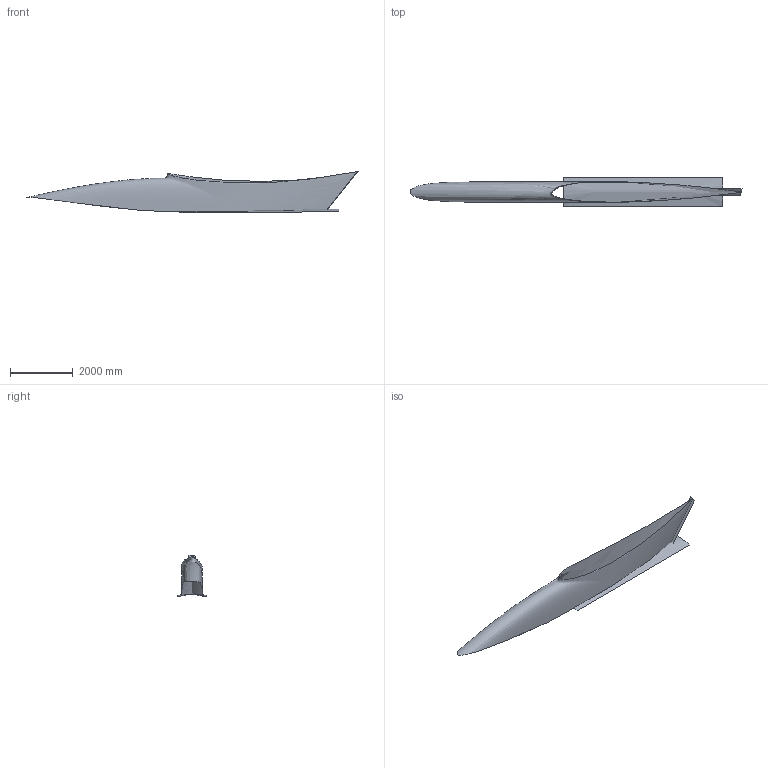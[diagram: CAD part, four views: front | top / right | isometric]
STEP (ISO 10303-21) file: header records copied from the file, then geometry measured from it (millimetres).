
FILE_DESCRIPTION(('CATIA V5 STEP Exchange'),'2;1');
FILE_NAME('C:\Users\dsl0381\Desktop\pyln02r1.stp','2022-05-19T14:57:58+00:00',('none'),('none'),'CATIA Version 5-6 Release 2018 SP6 HF6','CATIA V5 STEP AP203','none');
FILE_SCHEMA(('CONFIG_CONTROL_DESIGN'));
Products named in the file (1): 67260334
Bounding box: 10594.88 x 953.12 x 1330.2 mm (x, y, z)
Surface area: 24352961 mm2 (no closed solid volume)
Topology: 0 solids, 3 shells, 3 faces, 12 edges, 12 vertices
Faces by surface type: bspline 3
Entity records: 51590 total; most frequent: CARTESIAN_POINT 51478, ORIENTED_EDGE 12, B_SPLINE_CURVE_WITH_KNOTS 12, EDGE_CURVE 12, VERTEX_POINT 12, CC_DESIGN_PERSON_AND_ORGANIZATION_ASSIGNMENT 4, PERSON_AND_ORGANIZATION_ROLE 4, OPEN_SHELL 3
